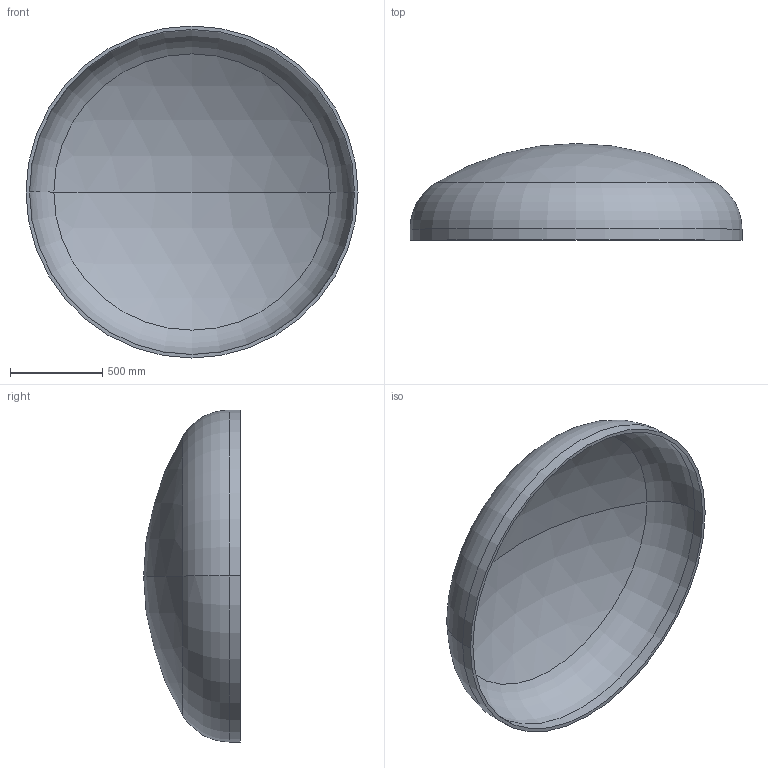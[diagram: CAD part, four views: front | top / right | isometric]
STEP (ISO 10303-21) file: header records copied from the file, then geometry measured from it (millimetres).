
FILE_DESCRIPTION (( 'STEP AP203' ), '1' );
FILE_NAME ('DIN 28013 Korbbogenform_-_Boden DIN 28013 - 1800 x 60 - I - s=19.step', '2016-07-01T12:20:34', ( '' ), ( '' ), 'SwSTEP 2.0', 'SolidWorks 2013', '' );
FILE_SCHEMA (( 'CONFIG_CONTROL_DESIGN' ));
Length unit declared in the file: millimetre
Products named in the file (1): DIN 28013 Korbbogenform_-_Boden DIN 28013 - 1800 x 60 - I - s=19
Bounding box: 1800 x 524.02 x 1800 mm (x, y, z)
Volume: 72310227 mm3; surface area: 7718664.5 mm2
Topology: 1 solids, 1 shells, 13 faces, 24 edges, 14 vertices
Faces by surface type: torus 4, cylinder 4, sphere 4, plane 1
Entity records: 407 total; most frequent: DIRECTION 72, CARTESIAN_POINT 52, ORIENTED_EDGE 48, AXIS2_PLACEMENT_3D 34, EDGE_CURVE 24, CIRCLE 20, EDGE_LOOP 14, VERTEX_POINT 14
